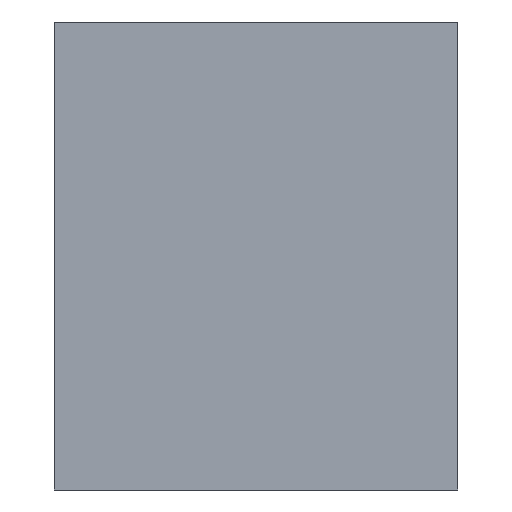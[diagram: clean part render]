
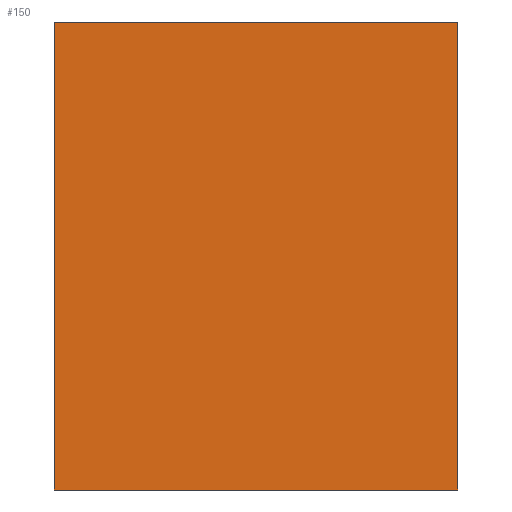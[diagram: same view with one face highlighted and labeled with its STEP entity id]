
A CAD part, front view. The second image highlights one B-rep face of the part: STEP entity #150.
In plain terms, the highlighted planar face has unit normal (0, -1, 0).
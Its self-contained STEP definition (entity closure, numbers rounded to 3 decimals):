
#107=PLANE('',#623);
#121=FACE_OUTER_BOUND('',#297,.T.);
#123=LINE('',#875,#135);
#124=LINE('',#878,#136);
#125=LINE('',#880,#137);
#126=LINE('',#882,#138);
#135=VECTOR('',#711,1.);
#136=VECTOR('',#712,1.);
#137=VECTOR('',#713,1.);
#138=VECTOR('',#714,1.);
#150=ADVANCED_FACE('',(#121),#107,.F.);
#297=EDGE_LOOP('',(#379,#380,#381,#382));
#379=ORIENTED_EDGE('',*,*,#531,.T.);
#380=ORIENTED_EDGE('',*,*,#532,.F.);
#381=ORIENTED_EDGE('',*,*,#533,.F.);
#382=ORIENTED_EDGE('',*,*,#534,.T.);
#479=VERTEX_POINT('',#876);
#480=VERTEX_POINT('',#877);
#481=VERTEX_POINT('',#879);
#482=VERTEX_POINT('',#881);
#531=EDGE_CURVE('',#479,#480,#123,.T.);
#532=EDGE_CURVE('',#481,#480,#124,.T.);
#533=EDGE_CURVE('',#482,#481,#125,.T.);
#534=EDGE_CURVE('',#482,#479,#126,.T.);
#623=AXIS2_PLACEMENT_3D('',#883,#715,#716);
#711=DIRECTION('',(0.,0.,1.));
#712=DIRECTION('',(1.,0.,0.));
#713=DIRECTION('',(0.,0.,1.));
#714=DIRECTION('',(1.,0.,0.));
#715=DIRECTION('',(0.,1.,0.));
#716=DIRECTION('',(0.,0.,1.));
#875=CARTESIAN_POINT('',(0.,-66.,-57.));
#876=CARTESIAN_POINT('',(0.,-66.,-57.));
#877=CARTESIAN_POINT('',(0.,-66.,59.));
#878=CARTESIAN_POINT('',(-100.,-66.,59.));
#879=CARTESIAN_POINT('',(-100.,-66.,59.));
#880=CARTESIAN_POINT('',(-100.,-66.,-57.));
#881=CARTESIAN_POINT('',(-100.,-66.,-57.));
#882=CARTESIAN_POINT('',(-100.,-66.,-57.));
#883=CARTESIAN_POINT('',(-100.,-66.,-57.));
